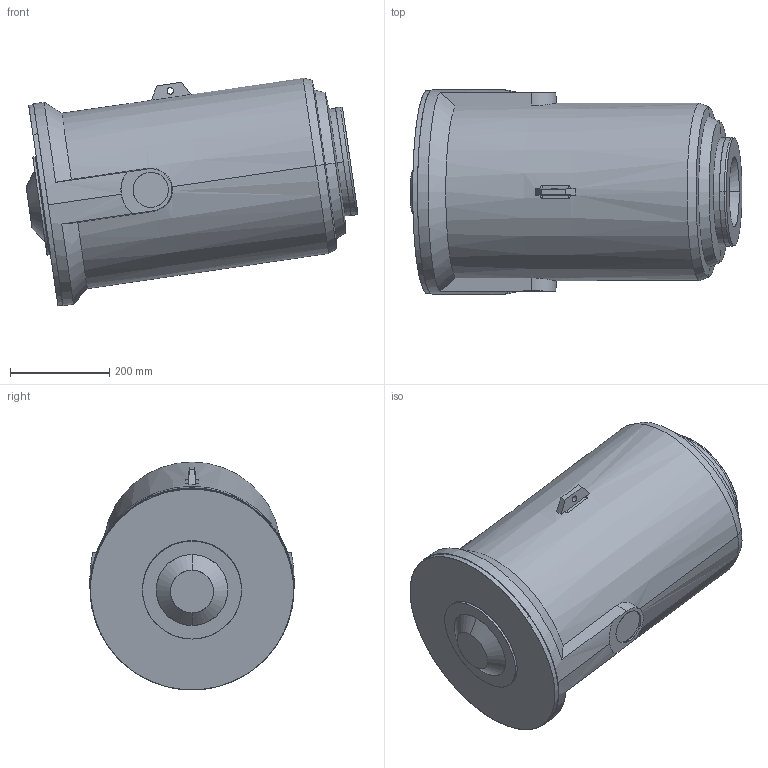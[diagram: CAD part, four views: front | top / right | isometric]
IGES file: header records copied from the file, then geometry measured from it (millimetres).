
Start section: SolidWorks IGES file using analytic representation for surfaces
Global section: file name: C:\Data\SAP_DOC\IRB6740_lightweight\6740\IRB6740_240kg-320_OC_01_SW_J\IRB6740_240kg-320_OC_01_IGES_J\IRB6740_240kg-320_OC_00_CYL_CAD.igs; native system: SolidWorks 2024; preprocessor: SolidWorks 2024; author: SEJAOLS6; date: 260513.070256; units: millimetre
Bounding box: 670.34 x 412 x 460.26 mm (x, y, z)
Surface area: 1080048.1 mm2 (no closed solid volume)
Topology: 0 solids, 0 shells, 76 faces, 1992 edges, 1992 vertices
Faces by surface type: revolution 50, bspline 26
